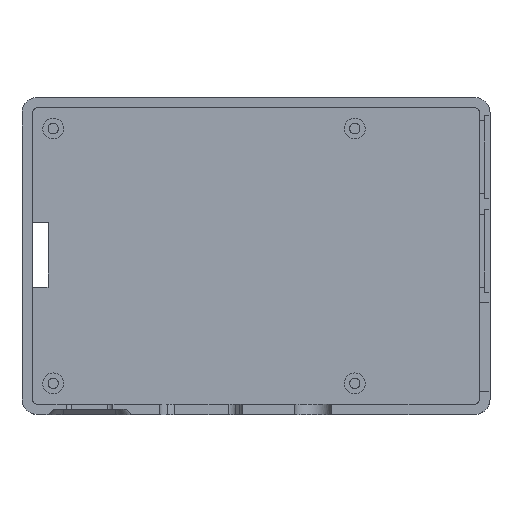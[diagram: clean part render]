
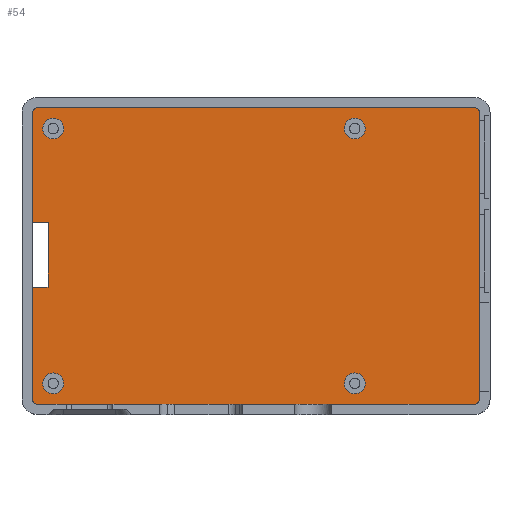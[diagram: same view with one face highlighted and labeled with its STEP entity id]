
A CAD part, top view. The second image highlights one B-rep face of the part: STEP entity #54.
In plain terms, the highlighted planar face has unit normal (0, 0, 1).
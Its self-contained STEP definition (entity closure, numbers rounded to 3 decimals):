
#18=FACE_BOUND('',#292,.T.);
#19=FACE_BOUND('',#293,.T.);
#20=FACE_BOUND('',#294,.T.);
#21=FACE_BOUND('',#295,.T.);
#54=ADVANCED_FACE('',(#171,#18,#19,#20,#21),#1769,.T.);
#171=FACE_OUTER_BOUND('',#291,.T.);
#291=EDGE_LOOP('',(#495,#496,#497,#498,#499,#500,#501,#502,#503,#504,#505,
#506));
#292=EDGE_LOOP('',(#507));
#293=EDGE_LOOP('',(#508));
#294=EDGE_LOOP('',(#509));
#295=EDGE_LOOP('',(#510));
#495=ORIENTED_EDGE('',*,*,#1100,.F.);
#496=ORIENTED_EDGE('',*,*,#1091,.F.);
#497=ORIENTED_EDGE('',*,*,#1092,.F.);
#498=ORIENTED_EDGE('',*,*,#1028,.F.);
#499=ORIENTED_EDGE('',*,*,#1016,.F.);
#500=ORIENTED_EDGE('',*,*,#1018,.T.);
#501=ORIENTED_EDGE('',*,*,#1017,.F.);
#502=ORIENTED_EDGE('',*,*,#1093,.F.);
#503=ORIENTED_EDGE('',*,*,#1096,.F.);
#504=ORIENTED_EDGE('',*,*,#1097,.F.);
#505=ORIENTED_EDGE('',*,*,#1098,.F.);
#506=ORIENTED_EDGE('',*,*,#1099,.F.);
#507=ORIENTED_EDGE('',*,*,#1013,.F.);
#508=ORIENTED_EDGE('',*,*,#1011,.F.);
#509=ORIENTED_EDGE('',*,*,#1008,.F.);
#510=ORIENTED_EDGE('',*,*,#1004,.F.);
#1004=EDGE_CURVE('',#1576,#1576,#1255,.T.);
#1008=EDGE_CURVE('',#1579,#1579,#1259,.T.);
#1011=EDGE_CURVE('',#1581,#1581,#1262,.T.);
#1013=EDGE_CURVE('',#1583,#1583,#1264,.T.);
#1016=EDGE_CURVE('',#1585,#1586,#1399,.T.);
#1017=EDGE_CURVE('',#1587,#1588,#1400,.T.);
#1018=EDGE_CURVE('',#1585,#1588,#1401,.T.);
#1028=EDGE_CURVE('',#1586,#1632,#1411,.T.);
#1091=EDGE_CURVE('',#1631,#1638,#1462,.T.);
#1092=EDGE_CURVE('',#1632,#1631,#1279,.T.);
#1093=EDGE_CURVE('',#1633,#1587,#1463,.T.);
#1096=EDGE_CURVE('',#1634,#1633,#1280,.T.);
#1097=EDGE_CURVE('',#1636,#1634,#1466,.T.);
#1098=EDGE_CURVE('',#1635,#1636,#1281,.T.);
#1099=EDGE_CURVE('',#1637,#1635,#1467,.T.);
#1100=EDGE_CURVE('',#1638,#1637,#1282,.T.);
#1255=(
BOUNDED_CURVE()
B_SPLINE_CURVE(2,(#3962,#3963,#3964,#3965,#3966,#3967,#3968,#3969,#3970),
 .UNSPECIFIED.,.T.,.F.)
B_SPLINE_CURVE_WITH_KNOTS((3,2,2,2,3),(0.,3.142,6.283,
9.425,12.566),.UNSPECIFIED.)
CURVE()
GEOMETRIC_REPRESENTATION_ITEM()
RATIONAL_B_SPLINE_CURVE((1.,0.707,1.,0.707,1.,0.707,
1.,0.707,1.))
REPRESENTATION_ITEM('')
);
#1259=(
BOUNDED_CURVE()
B_SPLINE_CURVE(2,(#3991,#3992,#3993,#3994,#3995,#3996,#3997,#3998,#3999),
 .UNSPECIFIED.,.T.,.F.)
B_SPLINE_CURVE_WITH_KNOTS((3,2,2,2,3),(0.,3.142,6.283,
9.425,12.566),.UNSPECIFIED.)
CURVE()
GEOMETRIC_REPRESENTATION_ITEM()
RATIONAL_B_SPLINE_CURVE((1.,0.707,1.,0.707,1.,0.707,
1.,0.707,1.))
REPRESENTATION_ITEM('')
);
#1262=(
BOUNDED_CURVE()
B_SPLINE_CURVE(2,(#4011,#4012,#4013,#4014,#4015,#4016,#4017,#4018,#4019),
 .UNSPECIFIED.,.T.,.F.)
B_SPLINE_CURVE_WITH_KNOTS((3,2,2,2,3),(0.,3.142,6.283,
9.425,12.566),.UNSPECIFIED.)
CURVE()
GEOMETRIC_REPRESENTATION_ITEM()
RATIONAL_B_SPLINE_CURVE((1.,0.707,1.,0.707,1.,0.707,
1.,0.707,1.))
REPRESENTATION_ITEM('')
);
#1264=(
BOUNDED_CURVE()
B_SPLINE_CURVE(2,(#4022,#4023,#4024,#4025,#4026,#4027,#4028,#4029,#4030),
 .UNSPECIFIED.,.T.,.F.)
B_SPLINE_CURVE_WITH_KNOTS((3,2,2,2,3),(0.,3.142,6.283,
9.425,12.566),.UNSPECIFIED.)
CURVE()
GEOMETRIC_REPRESENTATION_ITEM()
RATIONAL_B_SPLINE_CURVE((1.,0.707,1.,0.707,1.,0.707,
1.,0.707,1.))
REPRESENTATION_ITEM('')
);
#1279=(
BOUNDED_CURVE()
B_SPLINE_CURVE(2,(#4218,#4219,#4220),.UNSPECIFIED.,.F.,.F.)
B_SPLINE_CURVE_WITH_KNOTS((3,3),(-1.571,0.),.UNSPECIFIED.)
CURVE()
GEOMETRIC_REPRESENTATION_ITEM()
RATIONAL_B_SPLINE_CURVE((1.,0.707,1.))
REPRESENTATION_ITEM('')
);
#1280=(
BOUNDED_CURVE()
B_SPLINE_CURVE(2,(#4227,#4228,#4229),.UNSPECIFIED.,.F.,.F.)
B_SPLINE_CURVE_WITH_KNOTS((3,3),(0.,1.571),.UNSPECIFIED.)
CURVE()
GEOMETRIC_REPRESENTATION_ITEM()
RATIONAL_B_SPLINE_CURVE((1.,0.707,1.))
REPRESENTATION_ITEM('')
);
#1281=(
BOUNDED_CURVE()
B_SPLINE_CURVE(2,(#4232,#4233,#4234),.UNSPECIFIED.,.F.,.F.)
B_SPLINE_CURVE_WITH_KNOTS((3,3),(-1.571,0.),.UNSPECIFIED.)
CURVE()
GEOMETRIC_REPRESENTATION_ITEM()
RATIONAL_B_SPLINE_CURVE((1.,0.707,1.))
REPRESENTATION_ITEM('')
);
#1282=(
BOUNDED_CURVE()
B_SPLINE_CURVE(2,(#4237,#4238,#4239),.UNSPECIFIED.,.F.,.F.)
B_SPLINE_CURVE_WITH_KNOTS((3,3),(-1.571,0.),.UNSPECIFIED.)
CURVE()
GEOMETRIC_REPRESENTATION_ITEM()
RATIONAL_B_SPLINE_CURVE((1.,0.707,1.))
REPRESENTATION_ITEM('')
);
#1399=B_SPLINE_CURVE_WITH_KNOTS('',1,(#4042,#4043),.UNSPECIFIED.,.F.,.F.,
(2,2),(-3.,0.),.UNSPECIFIED.);
#1400=B_SPLINE_CURVE_WITH_KNOTS('',1,(#4044,#4045),.UNSPECIFIED.,.F.,.F.,
(2,2),(0.,3.),.UNSPECIFIED.);
#1401=B_SPLINE_CURVE_WITH_KNOTS('',1,(#4046,#4047),.UNSPECIFIED.,.F.,.F.,
(2,2),(-35.,-22.5),.UNSPECIFIED.);
#1411=B_SPLINE_CURVE_WITH_KNOTS('',1,(#4066,#4067),.UNSPECIFIED.,.F.,.F.,
(2,2),(35.,56.),.UNSPECIFIED.);
#1462=B_SPLINE_CURVE_WITH_KNOTS('',1,(#4216,#4217),.UNSPECIFIED.,.F.,.F.,
(2,2),(58.,142.),.UNSPECIFIED.);
#1463=B_SPLINE_CURVE_WITH_KNOTS('',1,(#4221,#4222),.UNSPECIFIED.,.F.,.F.,
(2,2),(1.,22.5),.UNSPECIFIED.);
#1466=B_SPLINE_CURVE_WITH_KNOTS('',1,(#4230,#4231),.UNSPECIFIED.,.F.,.F.,
(2,2),(201.,285.),.UNSPECIFIED.);
#1467=B_SPLINE_CURVE_WITH_KNOTS('',1,(#4235,#4236),.UNSPECIFIED.,.F.,.F.,
(2,2),(144.,199.),.UNSPECIFIED.);
#1576=VERTEX_POINT('',#3760);
#1579=VERTEX_POINT('',#3763);
#1581=VERTEX_POINT('',#3765);
#1583=VERTEX_POINT('',#3767);
#1585=VERTEX_POINT('',#3769);
#1586=VERTEX_POINT('',#3770);
#1587=VERTEX_POINT('',#3771);
#1588=VERTEX_POINT('',#3772);
#1631=VERTEX_POINT('',#3815);
#1632=VERTEX_POINT('',#3816);
#1633=VERTEX_POINT('',#3817);
#1634=VERTEX_POINT('',#3818);
#1635=VERTEX_POINT('',#3819);
#1636=VERTEX_POINT('',#3820);
#1637=VERTEX_POINT('',#3821);
#1638=VERTEX_POINT('',#3822);
#1769=PLANE('',#1905);
#1905=AXIS2_PLACEMENT_3D('',#2283,#1965,$);
#1965=DIRECTION('',(0.,0.,1.));
#2283=CARTESIAN_POINT('',(-43.,-28.5,3.));
#3760=CARTESIAN_POINT('',(-39.,-22.5,3.));
#3763=CARTESIAN_POINT('',(-39.,26.5,3.));
#3765=CARTESIAN_POINT('',(19.,26.5,3.));
#3767=CARTESIAN_POINT('',(19.,-22.5,3.));
#3769=CARTESIAN_POINT('',(-40.,6.5,3.));
#3770=CARTESIAN_POINT('',(-43.,6.5,3.));
#3771=CARTESIAN_POINT('',(-43.,-6.,3.));
#3772=CARTESIAN_POINT('',(-40.,-6.,3.));
#3815=CARTESIAN_POINT('',(-42.,28.5,3.));
#3816=CARTESIAN_POINT('',(-43.,27.5,3.));
#3817=CARTESIAN_POINT('',(-43.,-27.5,3.));
#3818=CARTESIAN_POINT('',(-42.,-28.5,3.));
#3819=CARTESIAN_POINT('',(43.,-27.5,3.));
#3820=CARTESIAN_POINT('',(42.,-28.5,3.));
#3821=CARTESIAN_POINT('',(43.,27.5,3.));
#3822=CARTESIAN_POINT('',(42.,28.5,3.));
#3962=CARTESIAN_POINT('',(-39.,-22.5,3.));
#3963=CARTESIAN_POINT('',(-41.,-22.5,3.));
#3964=CARTESIAN_POINT('',(-41.,-24.5,3.));
#3965=CARTESIAN_POINT('',(-41.,-26.5,3.));
#3966=CARTESIAN_POINT('',(-39.,-26.5,3.));
#3967=CARTESIAN_POINT('',(-37.,-26.5,3.));
#3968=CARTESIAN_POINT('',(-37.,-24.5,3.));
#3969=CARTESIAN_POINT('',(-37.,-22.5,3.));
#3970=CARTESIAN_POINT('',(-39.,-22.5,3.));
#3991=CARTESIAN_POINT('',(-39.,26.5,3.));
#3992=CARTESIAN_POINT('',(-41.,26.5,3.));
#3993=CARTESIAN_POINT('',(-41.,24.5,3.));
#3994=CARTESIAN_POINT('',(-41.,22.5,3.));
#3995=CARTESIAN_POINT('',(-39.,22.5,3.));
#3996=CARTESIAN_POINT('',(-37.,22.5,3.));
#3997=CARTESIAN_POINT('',(-37.,24.5,3.));
#3998=CARTESIAN_POINT('',(-37.,26.5,3.));
#3999=CARTESIAN_POINT('',(-39.,26.5,3.));
#4011=CARTESIAN_POINT('',(19.,26.5,3.));
#4012=CARTESIAN_POINT('',(17.,26.5,3.));
#4013=CARTESIAN_POINT('',(17.,24.5,3.));
#4014=CARTESIAN_POINT('',(17.,22.5,3.));
#4015=CARTESIAN_POINT('',(19.,22.5,3.));
#4016=CARTESIAN_POINT('',(21.,22.5,3.));
#4017=CARTESIAN_POINT('',(21.,24.5,3.));
#4018=CARTESIAN_POINT('',(21.,26.5,3.));
#4019=CARTESIAN_POINT('',(19.,26.5,3.));
#4022=CARTESIAN_POINT('',(19.,-22.5,3.));
#4023=CARTESIAN_POINT('',(17.,-22.5,3.));
#4024=CARTESIAN_POINT('',(17.,-24.5,3.));
#4025=CARTESIAN_POINT('',(17.,-26.5,3.));
#4026=CARTESIAN_POINT('',(19.,-26.5,3.));
#4027=CARTESIAN_POINT('',(21.,-26.5,3.));
#4028=CARTESIAN_POINT('',(21.,-24.5,3.));
#4029=CARTESIAN_POINT('',(21.,-22.5,3.));
#4030=CARTESIAN_POINT('',(19.,-22.5,3.));
#4042=CARTESIAN_POINT('',(-40.,6.5,3.));
#4043=CARTESIAN_POINT('',(-43.,6.5,3.));
#4044=CARTESIAN_POINT('',(-43.,-6.,3.));
#4045=CARTESIAN_POINT('',(-40.,-6.,3.));
#4046=CARTESIAN_POINT('',(-40.,6.5,3.));
#4047=CARTESIAN_POINT('',(-40.,-6.,3.));
#4066=CARTESIAN_POINT('',(-43.,6.5,3.));
#4067=CARTESIAN_POINT('',(-43.,27.5,3.));
#4216=CARTESIAN_POINT('',(-42.,28.5,3.));
#4217=CARTESIAN_POINT('',(42.,28.5,3.));
#4218=CARTESIAN_POINT('',(-43.,27.5,3.));
#4219=CARTESIAN_POINT('',(-43.,28.5,3.));
#4220=CARTESIAN_POINT('',(-42.,28.5,3.));
#4221=CARTESIAN_POINT('',(-43.,-27.5,3.));
#4222=CARTESIAN_POINT('',(-43.,-6.,3.));
#4227=CARTESIAN_POINT('',(-42.,-28.5,3.));
#4228=CARTESIAN_POINT('',(-43.,-28.5,3.));
#4229=CARTESIAN_POINT('',(-43.,-27.5,3.));
#4230=CARTESIAN_POINT('',(42.,-28.5,3.));
#4231=CARTESIAN_POINT('',(-42.,-28.5,3.));
#4232=CARTESIAN_POINT('',(43.,-27.5,3.));
#4233=CARTESIAN_POINT('',(43.,-28.5,3.));
#4234=CARTESIAN_POINT('',(42.,-28.5,3.));
#4235=CARTESIAN_POINT('',(43.,27.5,3.));
#4236=CARTESIAN_POINT('',(43.,-27.5,3.));
#4237=CARTESIAN_POINT('',(42.,28.5,3.));
#4238=CARTESIAN_POINT('',(43.,28.5,3.));
#4239=CARTESIAN_POINT('',(43.,27.5,3.));
